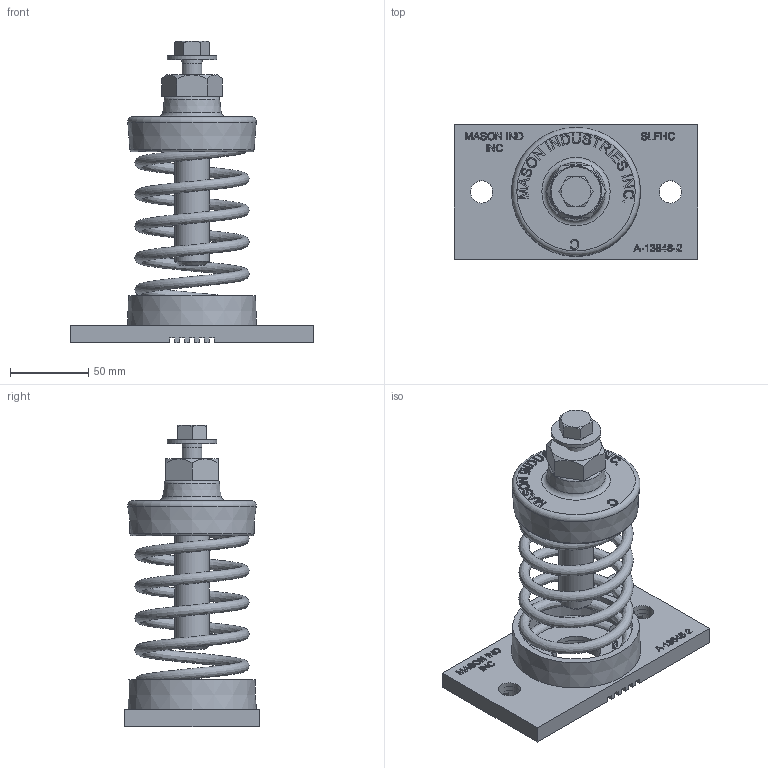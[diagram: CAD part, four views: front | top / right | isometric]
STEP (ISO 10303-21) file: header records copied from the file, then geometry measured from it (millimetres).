
FILE_DESCRIPTION(/* description */ (''),/* implementation_level */ '2;1');
FILE_NAME(/* name */ 'C:\2014_Work\SLFHC2.stp',/* time_stamp */ '2014-05-06T15:03:26-04:00',/* author */ ('mleuck'),/* organization */ (''),/* preprocessor_version */ 'ST-DEVELOPER v15.2',/* originating_system */ 'Autodesk Inventor 2014',/* authorisation */ '');
FILE_SCHEMA (('AUTOMOTIVE_DESIGN { 1 0 10303 214 3 1 1 }'));
Length unit declared in the file: inch
Products named in the file (10): SLFHC BOTTOM NEOPRENE PART PER A-13848-2; SLFHC BOTTOM STEEL PLATE PER A-13848-2; SLFHC BOTTOM ASSEMBLY PER A-13848-2; A-19774-1 SLFC TOP CASTING; ANSI B18.22.1 - 1_2 - Regular - Type B; ANSI_ASME B18.2.1 - 1_2-13 UNC - 1.25(2); A-19773-1 SLF-B ADJUSTMENT BOLT 4250 x 08750; SLFHC WOS ASSEMBLY PER A-19770-2; SPRING C2-210 (RED); SLFH-C2-210
Bounding box: 155.57 x 85.72 x 192.76 mm (x, y, z)
Volume: 300114.8 mm3; surface area: 166017.1 mm2
Topology: 7 solids, 8 shells, 867 faces, 2275 edges, 1511 vertices
Faces by surface type: plane 603, bspline 226, cylinder 18, cone 14, torus 6
Full cylindrical faces by diameter (mm): 10.592 x1, 12.7 x1, 13.487 x1, 14.287 x2, 15.081 x4, 19.05 x1, 19.447 x1, 22.225 x1, 31.75 x2, 32.544 x2, 72.231 x1, 74.612 x1
Entity records: 30295 total; most frequent: CARTESIAN_POINT 10318, ORIENTED_EDGE 4466, DIRECTION 3175, EDGE_CURVE 2233, LINE 1661, VECTOR 1661, VERTEX_POINT 1501, EDGE_LOOP 1008
